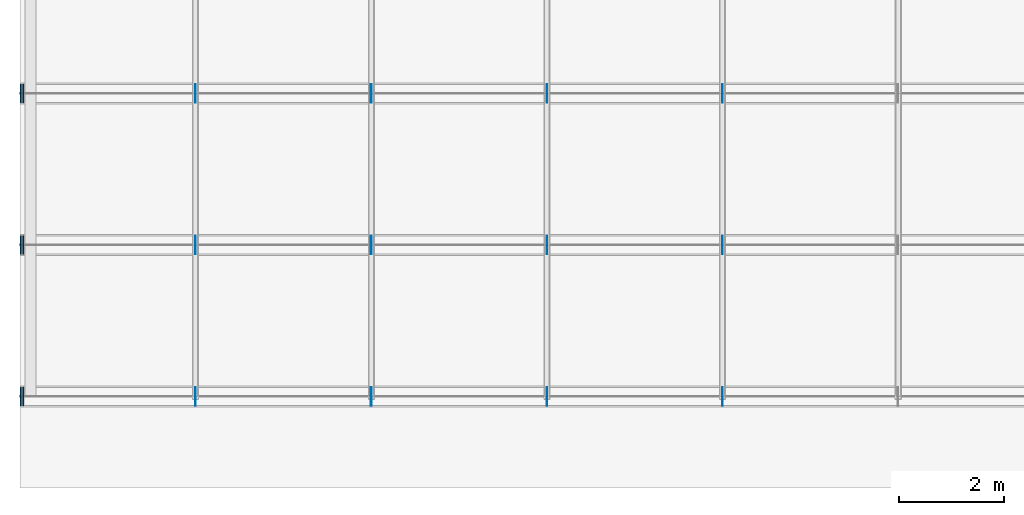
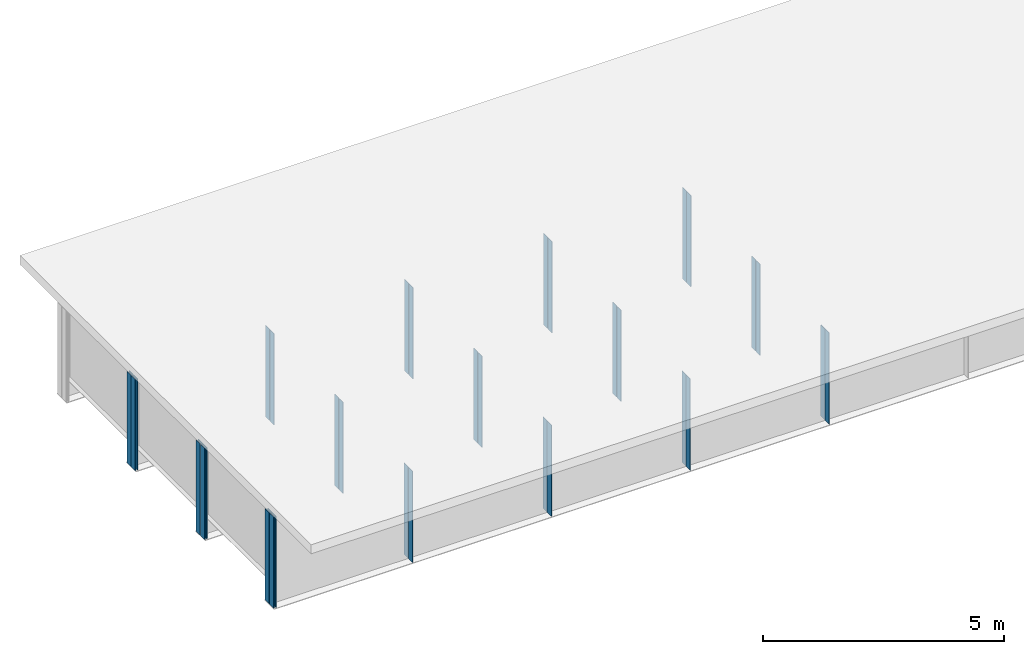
# One storey, part 3 of 15: 36 plates.
"""IFC4 building model written with IfcOpenShell, lengths in metres."""

from ifc_helpers import new_model, si_unit, frame, origin, origin_with_axes, origin_2d_with_axis, place, context, subcontext, project, spatial, rectangle, extrude, element, save


model = new_model("IFC4")

# Units and contexts
model_context = context("Model", 3, precision=1e-05, world=origin())
body_context = subcontext(model_context, "Body", "Model", "MODEL_VIEW")
ifc_project = project(units=[si_unit("LENGTHUNIT", "METRE"), si_unit("AREAUNIT", "SQUARE_METRE"), si_unit("VOLUMEUNIT", "CUBIC_METRE"), si_unit("PLANEANGLEUNIT", "RADIAN")], contexts=[model_context])

# Site, building, storey
site_placement = place(None, origin_with_axes())
site = spatial("IfcSite", under=ifc_project, at=site_placement, Name="Default Site")
building_placement = place(site_placement, origin_with_axes())
building = spatial("IfcBuilding", under=site, at=building_placement, Name="Bridge Structure")
storey_placement = place(building_placement, origin_with_axes())
storey = spatial("IfcBuildingStorey", under=building, at=storey_placement, Name="Superstructure")

# Plates
for number, where, z_axis, x_axis, name in (
    (1, (3.333, -4.221, -1.157), (0.0, 0.0, 1.0), (1.0, 0.0, 0.0), "Intermediate Stiffener 1"),
    (2, (3.333, -4.404, -1.157), (0.0, 0.0, 1.0), (1.0, 0.0, 0.0), "Intermediate Stiffener 1"),
    (3, (6.666, -4.221, -1.157), (0.0, 0.0, 1.0), (1.0, 0.0, 0.0), "Intermediate Stiffener 1"),
    (4, (6.666, -4.404, -1.157), (0.0, 0.0, 1.0), (1.0, 0.0, 0.0), "Intermediate Stiffener 1"),
    (5, (9.999, -4.221, -1.157), (0.0, 0.0, 1.0), (1.0, 0.0, 0.0), "Intermediate Stiffener 1"),
    (6, (9.999, -4.404, -1.157), (0.0, 0.0, 1.0), (1.0, 0.0, 0.0), "Intermediate Stiffener 1"),
    (7, (13.332, -4.221, -1.157), (0.0, 0.0, 1.0), (1.0, 0.0, 0.0), "Intermediate Stiffener 1"),
    (8, (13.332, -4.404, -1.157), (0.0, 0.0, 1.0), (1.0, 0.0, 0.0), "Intermediate Stiffener 1"),
):
    element("IfcPlate", number, at=place(storey_placement, frame(where, z_axis=z_axis, x_axis=x_axis)), inside=storey, Name=name, context=body_context, shape_type="SweptSolid", body=[
        extrude(rectangle(XDim=0.012, YDim=0.167, at=origin_2d_with_axis()), origin_with_axes(), (0.0, 0.0, 1.0), 2.314),
    ])
for number, where, z_axis, x_axis, name in (
    (9, (0.01, -4.221, -1.157), (0.0, 0.0, 1.0), (1.0, 0.0, 0.0), "End Stiffener 1"),
    (10, (0.01, -4.404, -1.157), (0.0, 0.0, 1.0), (1.0, 0.0, 0.0), "End Stiffener 1"),
    (11, (0.06, -4.221, -1.157), (0.0, 0.0, 1.0), (1.0, 0.0, 0.0), "End Stiffener 1"),
    (12, (0.06, -4.404, -1.157), (0.0, 0.0, 1.0), (1.0, 0.0, 0.0), "End Stiffener 1"),
):
    element("IfcPlate", number, at=place(storey_placement, frame(where, z_axis=z_axis, x_axis=x_axis)), inside=storey, Name=name, context=body_context, shape_type="SweptSolid", body=[
        extrude(rectangle(XDim=0.02, YDim=0.167, at=origin_2d_with_axis()), origin_with_axes(), (0.0, 0.0, 1.0), 2.314),
    ])
for number, where, z_axis, x_axis, name in (
    (13, (3.333, -1.346, -1.157), (0.0, 0.0, 1.0), (1.0, 0.0, 0.0), "Intermediate Stiffener 2"),
    (14, (3.333, -1.5290000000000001, -1.157), (0.0, 0.0, 1.0), (1.0, 0.0, 0.0), "Intermediate Stiffener 2"),
    (15, (6.666, -1.346, -1.157), (0.0, 0.0, 1.0), (1.0, 0.0, 0.0), "Intermediate Stiffener 2"),
    (16, (6.666, -1.5290000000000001, -1.157), (0.0, 0.0, 1.0), (1.0, 0.0, 0.0), "Intermediate Stiffener 2"),
    (17, (9.999, -1.346, -1.157), (0.0, 0.0, 1.0), (1.0, 0.0, 0.0), "Intermediate Stiffener 2"),
    (18, (9.999, -1.5290000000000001, -1.157), (0.0, 0.0, 1.0), (1.0, 0.0, 0.0), "Intermediate Stiffener 2"),
    (19, (13.332, -1.346, -1.157), (0.0, 0.0, 1.0), (1.0, 0.0, 0.0), "Intermediate Stiffener 2"),
    (20, (13.332, -1.5290000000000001, -1.157), (0.0, 0.0, 1.0), (1.0, 0.0, 0.0), "Intermediate Stiffener 2"),
):
    element("IfcPlate", number, at=place(storey_placement, frame(where, z_axis=z_axis, x_axis=x_axis)), inside=storey, Name=name, context=body_context, shape_type="SweptSolid", body=[
        extrude(rectangle(XDim=0.012, YDim=0.167, at=origin_2d_with_axis()), origin_with_axes(), (0.0, 0.0, 1.0), 2.314),
    ])
for number, where, z_axis, x_axis, name in (
    (21, (0.01, -1.346, -1.157), (0.0, 0.0, 1.0), (1.0, 0.0, 0.0), "End Stiffener 2"),
    (22, (0.01, -1.5290000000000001, -1.157), (0.0, 0.0, 1.0), (1.0, 0.0, 0.0), "End Stiffener 2"),
    (23, (0.06, -1.346, -1.157), (0.0, 0.0, 1.0), (1.0, 0.0, 0.0), "End Stiffener 2"),
    (24, (0.06, -1.5290000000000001, -1.157), (0.0, 0.0, 1.0), (1.0, 0.0, 0.0), "End Stiffener 2"),
):
    element("IfcPlate", number, at=place(storey_placement, frame(where, z_axis=z_axis, x_axis=x_axis)), inside=storey, Name=name, context=body_context, shape_type="SweptSolid", body=[
        extrude(rectangle(XDim=0.02, YDim=0.167, at=origin_2d_with_axis()), origin_with_axes(), (0.0, 0.0, 1.0), 2.314),
    ])
for number, where, z_axis, x_axis, name in (
    (25, (3.333, 1.5290000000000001, -1.157), (0.0, 0.0, 1.0), (1.0, 0.0, 0.0), "Intermediate Stiffener 3"),
    (26, (3.333, 1.346, -1.157), (0.0, 0.0, 1.0), (1.0, 0.0, 0.0), "Intermediate Stiffener 3"),
    (27, (6.666, 1.5290000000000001, -1.157), (0.0, 0.0, 1.0), (1.0, 0.0, 0.0), "Intermediate Stiffener 3"),
    (28, (6.666, 1.346, -1.157), (0.0, 0.0, 1.0), (1.0, 0.0, 0.0), "Intermediate Stiffener 3"),
    (29, (9.999, 1.5290000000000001, -1.157), (0.0, 0.0, 1.0), (1.0, 0.0, 0.0), "Intermediate Stiffener 3"),
    (30, (9.999, 1.346, -1.157), (0.0, 0.0, 1.0), (1.0, 0.0, 0.0), "Intermediate Stiffener 3"),
    (31, (13.332, 1.5290000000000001, -1.157), (0.0, 0.0, 1.0), (1.0, 0.0, 0.0), "Intermediate Stiffener 3"),
    (32, (13.332, 1.346, -1.157), (0.0, 0.0, 1.0), (1.0, 0.0, 0.0), "Intermediate Stiffener 3"),
):
    element("IfcPlate", number, at=place(storey_placement, frame(where, z_axis=z_axis, x_axis=x_axis)), inside=storey, Name=name, context=body_context, shape_type="SweptSolid", body=[
        extrude(rectangle(XDim=0.012, YDim=0.167, at=origin_2d_with_axis()), origin_with_axes(), (0.0, 0.0, 1.0), 2.314),
    ])
for number, where, z_axis, x_axis, name in (
    (33, (0.01, 1.5290000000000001, -1.157), (0.0, 0.0, 1.0), (1.0, 0.0, 0.0), "End Stiffener 3"),
    (34, (0.01, 1.346, -1.157), (0.0, 0.0, 1.0), (1.0, 0.0, 0.0), "End Stiffener 3"),
    (35, (0.06, 1.5290000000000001, -1.157), (0.0, 0.0, 1.0), (1.0, 0.0, 0.0), "End Stiffener 3"),
    (36, (0.06, 1.346, -1.157), (0.0, 0.0, 1.0), (1.0, 0.0, 0.0), "End Stiffener 3"),
):
    element("IfcPlate", number, at=place(storey_placement, frame(where, z_axis=z_axis, x_axis=x_axis)), inside=storey, Name=name, context=body_context, shape_type="SweptSolid", body=[
        extrude(rectangle(XDim=0.02, YDim=0.167, at=origin_2d_with_axis()), origin_with_axes(), (0.0, 0.0, 1.0), 2.314),
    ])

save(model, "model.ifc")
